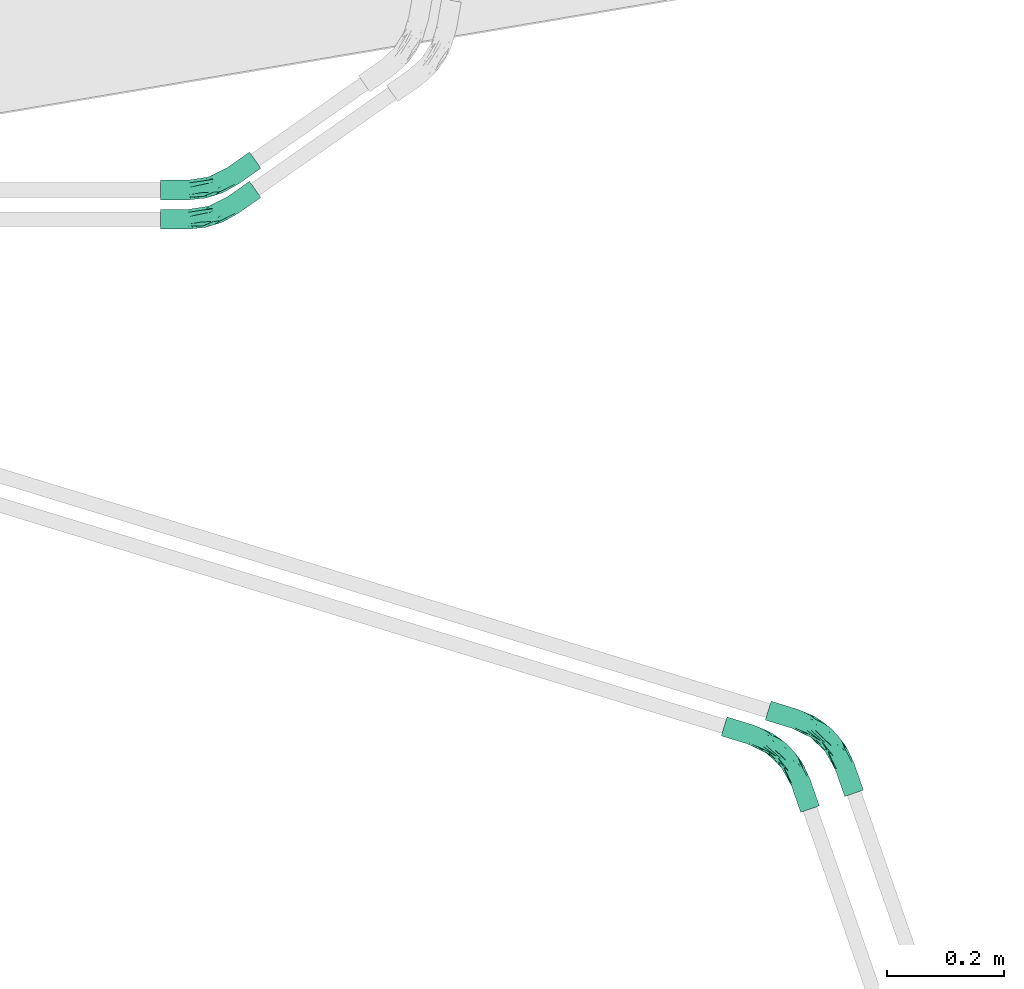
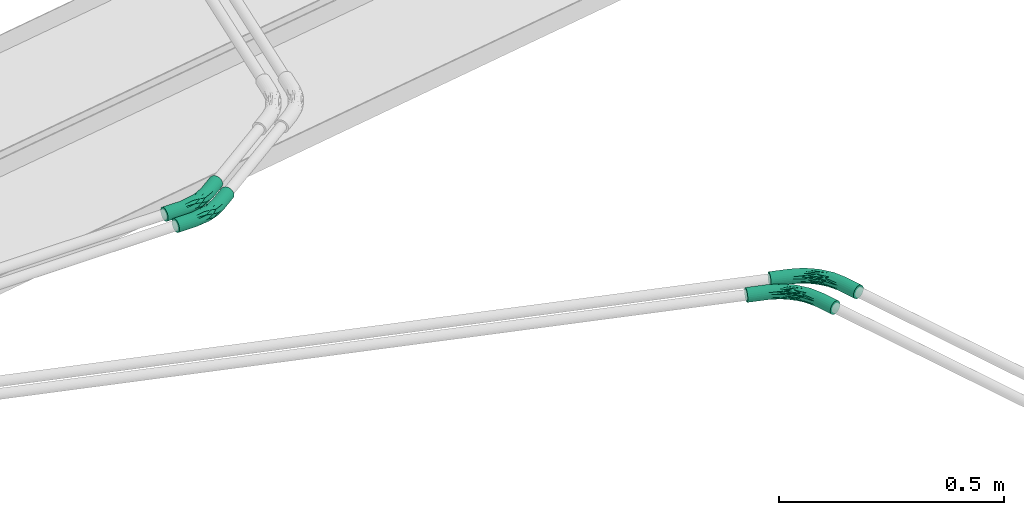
# One storey, part 17 of 22: 4 flow fittings.
"""IFC2X3 building model written with IfcOpenShell, lengths in millimetres."""

from ifc_helpers import new_model, entity, si_unit, converted_unit, derived_unit, direction, frame, origin_with_axes, place, context, subcontext, project, spatial, open_shell, surface_model, source, transform, mapped, type_object, element, save


model = new_model("IFC2X3")

# Units and contexts
model_context = context("Model", 3, precision=0.01, world=frame((0.0, 4.29681676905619e-09, 0.0)), true_north=direction((4.01073788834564e-13, 1.0)))
plan_context = context("Plan", 3, precision=0.01, world=frame((0.0, 4.29681676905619e-09, 0.0)), true_north=direction((4.01073788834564e-13, 1.0)))
body_context = subcontext(model_context, "Body", "Model", "MODEL_VIEW")
ifc_project = project(units=[converted_unit("PLANEANGLEUNIT", "DEGREE", entity("IfcPositiveLengthMeasure", 0.0174532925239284), si_unit("PLANEANGLEUNIT", "RADIAN"), dimensions=[0, 0, 0, 0, 0, 0, 0]), si_unit("AREAUNIT", "SQUARE_METRE"), si_unit("LENGTHUNIT", "METRE", prefix="MILLI"), si_unit("MASSUNIT", "GRAM", prefix="KILO"), si_unit("POWERUNIT", "WATT"), si_unit("PRESSUREUNIT", "PASCAL", prefix="KILO"), si_unit("FORCEUNIT", "NEWTON", prefix="KILO"), si_unit("ELECTRICVOLTAGEUNIT", "VOLT"), si_unit("ELECTRICCURRENTUNIT", "AMPERE"), si_unit("THERMODYNAMICTEMPERATUREUNIT", "DEGREE_CELSIUS"), si_unit("TIMEUNIT", "SECOND"), si_unit("VOLUMEUNIT", "CUBIC_METRE"), derived_unit("LINEARVELOCITYUNIT", [(si_unit("LENGTHUNIT", "METRE"), 1), (si_unit("TIMEUNIT", "SECOND"), -1)]), derived_unit("VOLUMETRICFLOWRATEUNIT", [(si_unit("VOLUMEUNIT", "CUBIC_METRE"), 1), (si_unit("TIMEUNIT", "SECOND"), -1)]), derived_unit("THERMALTRANSMITTANCEUNIT", [(si_unit("POWERUNIT", "WATT"), 1), (si_unit("THERMODYNAMICTEMPERATUREUNIT", "KELVIN"), -1), (si_unit("AREAUNIT", "SQUARE_METRE"), -1)]), derived_unit("SOUNDPRESSUREUNIT", [(si_unit("PRESSUREUNIT", "PASCAL"), 1)])], contexts=[model_context, plan_context])

# Site, building, storey
site_placement = place(None, frame((0.0, -4.29681676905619e-09, 0.0), z_axis=(0.0, 0.0, 1.0), x_axis=(1.0, 0.0, 0.0)))
site = spatial("IfcSite", under=ifc_project, at=site_placement, Name="ENGM", CompositionType="ELEMENT")
building_placement = place(site_placement, frame((0.0, 4.29681676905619e-09, 0.0), z_axis=(0.0, 0.0, 1.0), x_axis=(1.0, 0.0, 0.0)))
building = spatial("IfcBuilding", under=site, at=building_placement, Name="TI", CompositionType="ELEMENT")
storey_placement = place(building_placement, frame((0.0, 0.0, 210900.0), z_axis=(0.0, 0.0, 1.0), x_axis=(1.0, 0.0, 0.0)))
storey = spatial("IfcBuildingStorey", under=building, at=storey_placement, Name="Nivå F", CompositionType="ELEMENT", Elevation=210900.0)

# Flow fittings
cable_carrier_fitting_type = type_object("IfcCableCarrierFittingType", Name="Trekkerør, glatt bend", PredefinedType="BEND")
shared_shape_1 = source(origin_with_axes(), body_context, "Body", "SurfaceModel", [
    surface_model("IfcShellBasedSurfaceModel", [(-114.18104, 8.46055, -14.6541), (-114.18104, 4.3795, -16.34452), (-114.18104, 0.0, -16.92109), (-114.18104, -4.3795, -16.34452), (-114.18104, -8.46055, -14.6541), (-114.18104, -14.6541, -8.46055), (-114.18104, 16.92109, 0.0), (-114.18104, -11.96502, -11.96502), (-114.18104, -11.96502, 11.96502), (-114.18104, 14.6541, -8.46055), (-114.18104, 11.96502, -11.96502), (-114.18104, 16.34452, -4.3795), (-114.18104, -16.34452, -4.3795), (-114.18104, -16.92109, 0.0), (-114.18104, -16.34452, 4.3795), (-114.18104, -14.6541, 8.46055), (-114.18104, 0.0, 16.92109), (-114.18104, -8.46055, 14.6541), (-114.18104, -4.3795, 16.34452), (-114.18104, 14.6541, 8.46055), (-114.18104, 8.46055, 14.6541), (-114.18104, 11.96502, 11.96502), (-114.18104, 16.34452, 4.3795), (-114.18104, 4.3795, 16.34452), (-66.86307, 16.34452, 4.3795), (-66.86307, 16.92109, 0.0), (-66.86307, 14.6541, 8.46055), (-66.86307, 8.46055, 14.6541), (-66.86307, 11.96502, 11.96502), (-66.86307, 4.3795, 16.34452), (-66.86307, 0.0, 16.92109), (-66.86307, -8.46055, 14.6541), (-66.86307, -4.3795, 16.34452), (-66.86307, -11.96502, 11.96502), (-66.86307, -16.34452, 4.3795), (-66.86307, -14.6541, 8.46055), (-66.86307, -16.92109, 0.0), (-66.86307, -16.34452, -4.3795), (-66.86307, -14.6541, -8.46055), (-66.86307, -8.46055, -14.6541), (-66.86307, -11.96502, -11.96502), (-66.86307, -4.3795, -16.34452), (-66.86307, 0.0, -16.92109), (-66.86307, 8.46055, -14.6541), (-66.86307, 4.3795, -16.34452), (-66.86307, 11.96502, -11.96502), (-66.86307, 16.34452, -4.3795), (-66.86307, 14.6541, -8.46055), (-32.27242, 12.84216, 0.0), (-35.42196, 13.15403, 3.63992), (-7.95797, 4.42749, 3.1862), (21.78288, -31.11607, 16.75716), (39.48772, -53.9573, 16.92109), (43.0219, -51.37087, 16.34452), (-28.2681, 1.16114, 15.55965), (-32.48914, 9.40106, 10.16826), (-36.24238, 7.08238, 13.33358), (-43.40125, 13.61824, 6.79025), (-33.3333, -18.16273, 10.43706), (-4.61214, -9.09061, 15.89686), (-37.97456, -0.798, 16.75716), (13.72034, -40.73345, 13.50422), (29.83216, -61.02355, 11.96502), (32.66021, -58.95389, 14.6541), (11.07823, -28.03505, 16.79998), (-29.16631, -7.61689, 16.79998), (-9.40332, -18.53411, 16.22846), (-36.81854, -9.98559, 15.69055), (15.53221, -8.29758, 2.92209), (29.42271, -18.45899, 0.0), (0.42066, 0.82913, 0.0), (-40.97407, -12.98412, 13.50422), (28.60105, -22.24115, 10.17752), (49.14327, -46.89105, 11.96502), (51.31331, -45.30294, 8.46055), (-43.67359, -17.90107, 6.63933), (-16.70811, -26.90629, 6.71647), (35.95354, -56.54373, 16.34452), (13.68595, -35.60915, 15.69055), (-29.39279, -22.78636, 3.63614), (27.26363, -25.19258, 13.33415), (-4.16877, -35.06109, 3.66136), (27.66212, -62.61165, 8.46055), (9.20666, -43.94014, 6.59732), (26.29798, -63.60998, 4.3795), (17.63148, -22.12611, 15.55965), (46.31523, -48.9607, 14.6541), (22.76936, -14.64862, 6.28703), (36.27692, -25.07799, 3.1792), (52.67745, -44.30462, 4.3795), (2.86445, -3.39946, 9.02542), (53.14274, -43.96411, 0.0), (-2.4602, -4.84909, 13.22646), (-11.7917, -23.24165, 13.59813), (3.5245, -36.48876, 10.44458), (0.44002, -38.70356, 0.0), (25.8327, -63.95049, 0.0), (-31.49295, -22.5023, 0.0), (-6.09794, -12.01915, 16.73333), (-17.17436, 7.10447, 6.24887), (-4.44654, -24.36305, 15.14505), (-31.04354, -11.52814, -15.70174), (-16.70811, -26.90629, -6.71647), (3.5245, -36.48876, -10.44458), (9.20666, -43.94014, -6.59732), (29.00466, -22.59625, -10.17958), (-1.07229, -2.11351, -10.03898), (15.35976, -8.89418, -5.28368), (-40.97407, -12.98412, -13.50422), (-29.39279, -22.78636, -3.63614), (29.83216, -61.02355, -11.96502), (27.66212, -62.61165, -8.46055), (-4.16877, -35.06109, -3.66136), (-27.48572, 4.89323, -13.30679), (-33.3333, -18.16273, -10.43706), (-43.67359, -17.90107, -6.63933), (-11.7917, -23.24165, -13.59813), (-39.02557, -5.09311, -16.79389), (-35.36422, 10.06144, -10.17958), (-26.5563, 10.09311, -6.29304), (-41.67473, 14.46692, -3.17756), (36.78908, -26.89793, -6.37043), (51.31331, -45.30294, -8.46055), (-36.95798, 3.34037, -15.57665), (-8.09915, -15.96357, -16.81304), (9.03056, -31.85982, -15.70174), (-29.17558, -3.00766, -16.75093), (35.95354, -56.54373, -16.34452), (32.66021, -58.95389, -14.6541), (18.93752, -34.5008, -16.79389), (26.29798, -63.60998, -4.3795), (14.80326, -25.32043, -16.75093), (43.0219, -51.37087, -16.34452), (39.48772, -53.9573, -16.92109), (49.14327, -46.89105, -11.96502), (46.31523, -48.9607, -14.6541), (20.18115, -19.29066, -13.30679), (13.72034, -40.73345, -13.50422), (24.52211, -27.85168, -15.57665), (-4.17447, -8.22795, -15.50993), (-6.60087, -13.01042, -16.86289), (-2.8082, -5.53501, -13.80517), (52.67745, -44.30462, -4.3795), (-15.87372, 7.6289, -2.95781), (36.50825, -25.29169, -3.14006), (60.60506, -97.13865, -14.6541), (63.89839, -94.72848, -16.34452), (67.43257, -92.14205, -16.92109), (57.77701, -99.20831, -11.96502), (81.08759, -82.14886, 0.0), (55.60698, -100.79641, -8.46055), (60.60506, -97.13865, 14.6541), (77.08813, -85.0758, -11.96502), (79.25816, -83.48769, -8.46055), (74.26008, -87.14545, -14.6541), (70.96675, -89.55563, -16.34452), (80.6223, -82.48937, -4.3795), (53.77755, -102.13524, 0.0), (54.24283, -101.79473, -4.3795), (55.60698, -100.79641, 8.46055), (54.24283, -101.79473, 4.3795), (57.77701, -99.20831, 11.96502), (79.25816, -83.48769, 8.46055), (63.89839, -94.72848, 16.34452), (77.08813, -85.0758, 11.96502), (74.26008, -87.14545, 14.6541), (80.6223, -82.48937, 4.3795), (70.96675, -89.55563, 16.34452), (67.43257, -92.14205, 16.92109)], [open_shell([[[0, 1, 2]], [[2, 3, 4]], [[2, 4, 5]], [[2, 5, 6]], [[5, 4, 7]], [[8, 6, 5]], [[0, 9, 10]], [[0, 11, 9]], [[0, 2, 11]], [[6, 11, 2]], [[5, 12, 8]], [[13, 14, 15]], [[13, 15, 8]], [[16, 6, 17]], [[6, 8, 17]], [[16, 17, 18]], [[19, 20, 21]], [[19, 22, 6]], [[20, 16, 23]], [[20, 19, 6]], [[20, 6, 16]], [[12, 13, 8]], [[24, 25, 22]], [[24, 19, 26]], [[27, 28, 20]], [[21, 28, 26]], [[29, 27, 23]], [[6, 22, 25]], [[22, 19, 24]], [[19, 21, 26]], [[21, 20, 28]], [[27, 20, 23]], [[23, 16, 29]], [[16, 30, 29]], [[31, 32, 17]], [[31, 8, 33]], [[34, 35, 14]], [[15, 35, 33]], [[36, 34, 13]], [[30, 18, 32]], [[18, 17, 32]], [[16, 18, 30]], [[17, 8, 31]], [[8, 15, 33]], [[35, 15, 14]], [[14, 13, 34]], [[37, 36, 12]], [[37, 5, 38]], [[39, 40, 4]], [[7, 40, 38]], [[41, 39, 3]], [[13, 12, 36]], [[12, 5, 37]], [[5, 7, 38]], [[7, 4, 40]], [[39, 4, 3]], [[3, 2, 41]], [[2, 42, 41]], [[43, 44, 0]], [[43, 10, 45]], [[46, 47, 11]], [[9, 47, 45]], [[25, 46, 6]], [[42, 1, 44]], [[1, 0, 44]], [[2, 1, 42]], [[0, 10, 43]], [[10, 9, 45]], [[47, 9, 11]], [[11, 6, 46]], [[48, 49, 50]], [[48, 25, 49]], [[51, 52, 53]], [[54, 27, 29]], [[55, 28, 56]], [[57, 49, 24]], [[58, 33, 35]], [[59, 54, 60]], [[29, 30, 60]], [[61, 62, 63]], [[64, 65, 66]], [[65, 32, 67]], [[68, 69, 70]], [[71, 31, 33]], [[72, 73, 74]], [[75, 76, 58]], [[30, 32, 65]], [[28, 55, 26]], [[63, 77, 78]], [[75, 79, 76]], [[73, 72, 80]], [[79, 34, 36]], [[76, 79, 81]], [[67, 32, 31]], [[30, 65, 60]], [[68, 70, 50]], [[50, 70, 48]], [[82, 83, 84]], [[51, 53, 85]], [[63, 78, 61]], [[33, 58, 71]], [[53, 86, 85]], [[68, 87, 88]], [[77, 52, 64]], [[86, 73, 80]], [[89, 87, 74]], [[72, 87, 90]], [[74, 87, 72]], [[27, 56, 28]], [[88, 89, 91]], [[55, 92, 90]], [[93, 58, 94]], [[27, 54, 56]], [[83, 76, 81]], [[55, 57, 26]], [[84, 95, 96]], [[66, 78, 64]], [[79, 97, 81]], [[82, 94, 83]], [[94, 82, 62]], [[60, 98, 59]], [[93, 94, 61]], [[92, 85, 80]], [[64, 78, 77]], [[51, 98, 64]], [[85, 92, 59]], [[76, 94, 58]], [[90, 87, 99]], [[100, 66, 67]], [[65, 64, 98]], [[93, 67, 71]], [[56, 92, 55]], [[92, 56, 54]], [[86, 80, 85]], [[80, 72, 92]], [[29, 60, 54]], [[98, 60, 65]], [[52, 51, 64]], [[59, 98, 51]], [[95, 84, 81]], [[76, 83, 94]], [[31, 71, 67]], [[93, 71, 58]], [[62, 61, 94]], [[100, 93, 61]], [[72, 90, 92]], [[90, 99, 55]], [[83, 81, 84]], [[95, 81, 97]], [[97, 79, 36]], [[35, 34, 75]], [[79, 75, 34]], [[35, 75, 58]], [[78, 66, 100]], [[66, 65, 67]], [[69, 68, 88]], [[99, 87, 50]], [[69, 88, 91]], [[89, 88, 87]], [[68, 50, 87]], [[49, 99, 50]], [[99, 49, 57]], [[24, 49, 25]], [[99, 57, 55]], [[26, 57, 24]], [[54, 59, 92]], [[85, 59, 51]], [[78, 100, 61]], [[93, 100, 67]], [[39, 41, 101]], [[102, 103, 104]], [[105, 106, 107]], [[39, 108, 40]], [[36, 109, 97]], [[110, 111, 103]], [[109, 112, 97]], [[113, 43, 45]], [[38, 40, 114]], [[38, 114, 115]], [[116, 103, 114]], [[117, 41, 42]], [[118, 47, 119]], [[102, 114, 103]], [[120, 46, 25]], [[121, 122, 105]], [[47, 46, 119]], [[116, 114, 108]], [[44, 43, 123]], [[124, 125, 101]], [[45, 118, 113]], [[113, 123, 43]], [[126, 42, 44]], [[116, 101, 125]], [[124, 101, 117]], [[125, 127, 128]], [[112, 95, 97]], [[127, 125, 129]], [[130, 96, 95]], [[131, 132, 133]], [[130, 104, 111]], [[134, 135, 136]], [[39, 101, 108]], [[137, 110, 103]], [[137, 116, 125]], [[104, 130, 112]], [[129, 133, 127]], [[132, 131, 138]], [[126, 139, 140]], [[110, 137, 128]], [[129, 124, 140]], [[129, 140, 131]], [[136, 138, 139]], [[139, 141, 136]], [[122, 121, 142]], [[48, 70, 143]], [[105, 134, 136]], [[138, 135, 132]], [[107, 70, 69]], [[122, 134, 105]], [[91, 144, 69]], [[119, 107, 106]], [[143, 70, 107]], [[143, 119, 120]], [[113, 106, 141]], [[42, 126, 117]], [[47, 118, 45]], [[109, 37, 115]], [[139, 126, 123]], [[144, 121, 107]], [[105, 136, 106]], [[118, 106, 113]], [[106, 118, 119]], [[44, 123, 126]], [[139, 123, 113]], [[135, 138, 136]], [[139, 138, 131]], [[41, 117, 101]], [[140, 124, 117]], [[133, 129, 131]], [[124, 129, 125]], [[111, 104, 103]], [[102, 104, 112]], [[40, 108, 114]], [[116, 108, 101]], [[128, 137, 125]], [[116, 137, 103]], [[109, 102, 112]], [[95, 112, 130]], [[102, 109, 115]], [[37, 109, 36]], [[102, 115, 114]], [[38, 115, 37]], [[142, 121, 144]], [[107, 121, 105]], [[142, 144, 91]], [[69, 144, 107]], [[48, 143, 120]], [[119, 143, 107]], [[48, 120, 25]], [[46, 120, 119]], [[136, 141, 106]], [[141, 139, 113]], [[131, 140, 139]], [[126, 140, 117]], [[145, 146, 147]], [[148, 145, 147]], [[149, 150, 147]], [[148, 147, 150]], [[150, 149, 151]], [[152, 153, 154]], [[147, 155, 154]], [[156, 149, 153]], [[154, 153, 149]], [[154, 149, 147]], [[157, 158, 150]], [[159, 160, 157]], [[161, 159, 157]], [[149, 162, 151]], [[161, 157, 151]], [[163, 151, 162]], [[164, 165, 162]], [[162, 149, 166]], [[165, 167, 162]], [[168, 162, 167]], [[162, 168, 163]], [[151, 157, 150]], [[166, 149, 89]], [[166, 74, 162]], [[165, 164, 86]], [[73, 164, 162]], [[167, 165, 53]], [[91, 89, 149]], [[89, 74, 166]], [[74, 73, 162]], [[73, 86, 164]], [[165, 86, 53]], [[53, 52, 167]], [[52, 168, 167]], [[151, 163, 63]], [[151, 62, 161]], [[160, 159, 84]], [[82, 159, 161]], [[157, 160, 96]], [[168, 77, 163]], [[77, 63, 163]], [[52, 77, 168]], [[63, 62, 151]], [[62, 82, 161]], [[159, 82, 84]], [[84, 96, 160]], [[158, 157, 96]], [[158, 130, 150]], [[127, 146, 145]], [[110, 145, 148]], [[148, 150, 111]], [[130, 111, 150]], [[158, 96, 130]], [[128, 145, 110]], [[127, 145, 128]], [[127, 133, 146]], [[148, 111, 110]], [[133, 147, 146]], [[154, 155, 135]], [[154, 134, 152]], [[156, 153, 142]], [[122, 153, 152]], [[149, 156, 91]], [[147, 132, 155]], [[132, 135, 155]], [[133, 132, 147]], [[135, 134, 154]], [[134, 122, 152]], [[153, 122, 142]], [[142, 91, 156]]])]),
])
for number, where, z_axis, x_axis, name in (
    (1, (599626.55018, 575799.66133, -56.7999999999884), (0.0, 0.0, 1.0), (0.956304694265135, -0.292371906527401, 0.0), "Trekkerør, glatt bend"),
    (2, (599701.83527, 575826.64437, -56.7999999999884), (0.0, 0.0, 1.0), (0.956304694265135, -0.292371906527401, 0.0), "Trekkerør, glatt bend"),
):
    element("IfcFlowFitting", number, at=place(storey_placement, frame(where, z_axis=z_axis, x_axis=x_axis)), inside=storey, type_object=cable_carrier_fitting_type, Name=name, context=body_context, shape_type="MappedRepresentation", body=[
        mapped(shared_shape_1, transform((0.0, 0.0, 0.0), scale=1.0)),
    ])
shared_shape_2 = source(origin_with_axes(), body_context, "Body", "SurfaceModel", [
    surface_model("IfcShellBasedSurfaceModel", [(-88.87066, 8.46055, -14.6541), (-88.87066, 4.3795, -16.34452), (-88.87066, 0.0, -16.92109), (-88.87066, -4.3795, -16.34452), (-88.87066, -8.46055, -14.6541), (-88.87066, -14.6541, -8.46055), (-88.87066, 16.92109, 0.0), (-88.87066, -11.96502, -11.96502), (-88.87066, -11.96502, 11.96502), (-88.87066, 14.6541, -8.46055), (-88.87066, 11.96502, -11.96502), (-88.87066, 16.34452, -4.3795), (-88.87066, -16.34452, -4.3795), (-88.87066, -16.92109, 0.0), (-88.87066, -16.34452, 4.3795), (-88.87066, -14.6541, 8.46055), (-88.87066, 0.0, 16.92109), (-88.87066, -8.46055, 14.6541), (-88.87066, -4.3795, 16.34452), (-88.87066, 14.6541, 8.46055), (-88.87066, 8.46055, 14.6541), (-88.87066, 11.96502, 11.96502), (-88.87066, 16.34452, 4.3795), (-88.87066, 4.3795, 16.34452), (-41.55269, 16.34452, 4.3795), (-41.55269, 16.92109, 0.0), (-41.55269, 14.6541, 8.46055), (-41.55269, 8.46055, 14.6541), (-41.55269, 11.96502, 11.96502), (-41.55269, 4.3795, 16.34452), (-41.55269, 0.0, 16.92109), (-41.55269, -8.46055, 14.6541), (-41.55269, -4.3795, 16.34452), (-41.55269, -11.96502, 11.96502), (-41.55269, -16.34452, 4.3795), (-41.55269, -14.6541, 8.46055), (-41.55269, -16.92109, 0.0), (-41.55269, -16.34452, -4.3795), (-41.55269, -14.6541, -8.46055), (-41.55269, -8.46055, -14.6541), (-41.55269, -11.96502, -11.96502), (-41.55269, -4.3795, -16.34452), (-41.55269, 0.0, -16.92109), (-41.55269, 8.46055, -14.6541), (-41.55269, 4.3795, -16.34452), (-41.55269, 11.96502, -11.96502), (-41.55269, 16.34452, -4.3795), (-41.55269, 14.6541, -8.46055), (2.90029, 9.19856, 5.38748), (-11.48104, 13.84885, 0.0), (-9.27928, 9.85588, 10.22003), (19.86976, -0.15259, 10.23803), (1.20669, 3.82712, 13.34122), (36.54995, -20.24616, 16.34452), (11.21471, -11.56856, 16.91377), (34.03797, -23.83364, 16.92109), (-1.22017, -3.86989, 16.75881), (-9.97623, 2.91658, 15.59436), (24.66313, -37.22229, 4.3795), (2.41695, -25.3289, 3.24961), (24.33243, -37.69459, 0.0), (38.89074, -16.90317, 14.6541), (40.90082, -14.03247, 11.96502), (-3.83563, -12.16507, 15.68042), (-11.06472, -5.74517, 16.78899), (-12.01933, -13.8649, 13.48391), (31.52599, -27.42112, 16.34452), (7.86439, -19.14087, 14.46607), (29.1852, -30.76412, 14.6541), (-5.93803, -18.83303, 10.39535), (-1.29023, -22.79398, 6.56595), (42.44321, -11.82971, 8.46055), (-21.1026, -18.54685, 2.632), (25.63272, -35.83757, 8.46055), (27.17511, -33.63481, 11.96502), (17.34809, 4.75906, 0.0), (17.57572, -6.73024, 15.60468), (9.01394, -14.11226, 16.50988), (43.4128, -10.44499, 4.3795), (43.74351, -9.97269, 0.0), (-7.01146, -22.2375, 0.0), (-15.82201, -3.04391, -16.91377), (-18.25749, 4.56793, -15.60468), (-1.22017, -3.86989, -16.75881), (13.25424, 2.75109, -10.22003), (-16.36388, 11.27183, -10.23803), (2.90029, 9.19856, -5.38748), (-15.47825, -6.38991, -16.50988), (5.7684, -11.05263, -16.78899), (-3.83563, -12.16507, -15.68042), (-5.93803, -18.83303, -10.39535), (-12.0172, -19.41179, -6.56595), (9.84493, -3.33301, -15.59436), (-17.42088, -11.16845, -14.46607), (1.89307, -18.25147, -13.48391), (1.20669, 3.82712, -13.34122), (-16.50791, -19.36192, -3.24961), (43.4128, -10.44499, -4.3795), (42.44321, -11.82971, -8.46055), (40.90082, -14.03247, -11.96502), (6.6482, -27.29665, -2.632), (24.66313, -37.22229, -4.3795), (38.89074, -16.90317, -14.6541), (36.54995, -20.24616, -16.34452), (25.63272, -35.83757, -8.46055), (27.17511, -33.63481, -11.96502), (31.52599, -27.42112, -16.34452), (29.1852, -30.76412, -14.6541), (34.03797, -23.83364, -16.92109), (70.2866, -54.56159, -16.34452), (72.79858, -50.97411, -16.92109), (75.31056, -47.38664, -16.34452), (67.94581, -57.90459, -14.6541), (63.42374, -64.36276, -4.3795), (64.39334, -62.97805, -8.46055), (65.93572, -60.77528, -11.96502), (82.50412, -37.11316, 0.0), (63.42374, -64.36276, 4.3795), (79.66143, -41.17294, -11.96502), (81.20382, -38.97018, -8.46055), (77.65135, -44.04364, -14.6541), (82.17341, -37.58546, -4.3795), (63.09304, -64.83506, 0.0), (64.39334, -62.97805, 8.46055), (79.66143, -41.17294, 11.96502), (67.94581, -57.90459, 14.6541), (65.93572, -60.77528, 11.96502), (72.79858, -50.97411, 16.92109), (70.2866, -54.56159, 16.34452), (81.20382, -38.97018, 8.46055), (82.17341, -37.58546, 4.3795), (77.65135, -44.04364, 14.6541), (75.31056, -47.38664, 16.34452)], [open_shell([[[0, 1, 2]], [[2, 3, 4]], [[2, 4, 5]], [[2, 5, 6]], [[5, 4, 7]], [[8, 6, 5]], [[0, 9, 10]], [[0, 11, 9]], [[0, 2, 11]], [[6, 11, 2]], [[5, 12, 8]], [[13, 14, 15]], [[13, 15, 8]], [[16, 6, 17]], [[6, 8, 17]], [[16, 17, 18]], [[19, 20, 21]], [[19, 22, 6]], [[20, 16, 23]], [[20, 19, 6]], [[20, 6, 16]], [[12, 13, 8]], [[24, 25, 22]], [[24, 19, 26]], [[27, 28, 20]], [[21, 28, 26]], [[29, 27, 23]], [[6, 22, 25]], [[22, 19, 24]], [[19, 21, 26]], [[21, 20, 28]], [[27, 20, 23]], [[23, 16, 29]], [[16, 30, 29]], [[31, 32, 17]], [[31, 8, 33]], [[34, 35, 14]], [[15, 35, 33]], [[36, 34, 13]], [[30, 18, 32]], [[18, 17, 32]], [[16, 18, 30]], [[17, 8, 31]], [[8, 15, 33]], [[35, 15, 14]], [[14, 13, 34]], [[37, 36, 12]], [[37, 5, 38]], [[39, 40, 4]], [[7, 40, 38]], [[41, 39, 3]], [[13, 12, 36]], [[12, 5, 37]], [[5, 7, 38]], [[7, 4, 40]], [[39, 4, 3]], [[3, 2, 41]], [[2, 42, 41]], [[43, 44, 0]], [[43, 10, 45]], [[46, 47, 11]], [[9, 47, 45]], [[25, 46, 6]], [[42, 1, 44]], [[1, 0, 44]], [[2, 1, 42]], [[0, 10, 43]], [[10, 9, 45]], [[47, 9, 11]], [[11, 6, 46]], [[26, 48, 24]], [[25, 24, 49]], [[50, 26, 28]], [[51, 50, 52]], [[27, 52, 28]], [[52, 50, 28]], [[53, 54, 55]], [[29, 56, 57]], [[29, 30, 56]], [[57, 27, 29]], [[58, 59, 60]], [[52, 61, 62]], [[63, 64, 32]], [[32, 31, 63]], [[65, 31, 33]], [[66, 67, 68]], [[50, 48, 26]], [[69, 65, 33]], [[57, 52, 27]], [[33, 35, 69]], [[70, 69, 35]], [[71, 48, 51]], [[34, 36, 72]], [[69, 73, 74]], [[48, 75, 49]], [[64, 30, 32]], [[53, 61, 76]], [[56, 76, 57]], [[50, 51, 48]], [[54, 64, 77]], [[55, 54, 66]], [[48, 49, 24]], [[57, 76, 52]], [[71, 51, 62]], [[56, 54, 53]], [[78, 79, 75]], [[77, 66, 54]], [[53, 76, 56]], [[56, 64, 54]], [[72, 59, 70]], [[48, 71, 78]], [[60, 59, 80]], [[64, 56, 30]], [[73, 69, 70]], [[63, 65, 67]], [[67, 65, 74]], [[34, 70, 35]], [[73, 70, 58]], [[65, 63, 31]], [[69, 74, 65]], [[77, 64, 63]], [[58, 70, 59]], [[62, 51, 52]], [[75, 48, 78]], [[77, 63, 66]], [[61, 52, 76]], [[80, 59, 72]], [[80, 72, 36]], [[34, 72, 70]], [[63, 67, 66]], [[68, 67, 74]], [[44, 81, 42]], [[44, 82, 83]], [[84, 85, 86]], [[87, 88, 89]], [[90, 91, 38]], [[82, 92, 83]], [[93, 94, 40]], [[94, 90, 40]], [[39, 41, 93]], [[89, 94, 93]], [[45, 85, 95]], [[38, 40, 90]], [[46, 25, 49]], [[37, 96, 36]], [[87, 89, 41]], [[86, 46, 49]], [[43, 45, 95]], [[83, 81, 44]], [[75, 97, 86]], [[85, 45, 47]], [[43, 82, 44]], [[42, 81, 41]], [[87, 41, 81]], [[84, 98, 99]], [[96, 80, 36]], [[92, 82, 95]], [[100, 101, 60]], [[92, 102, 103]], [[85, 84, 95]], [[104, 91, 90]], [[90, 94, 105]], [[87, 81, 88]], [[89, 106, 107]], [[83, 88, 81]], [[37, 91, 96]], [[104, 90, 105]], [[101, 91, 104]], [[88, 106, 89]], [[83, 92, 103]], [[43, 95, 82]], [[84, 99, 95]], [[95, 99, 102]], [[92, 95, 102]], [[83, 103, 108]], [[75, 86, 49]], [[84, 86, 98]], [[97, 75, 79]], [[38, 91, 37]], [[94, 107, 105]], [[98, 86, 97]], [[47, 86, 85]], [[86, 47, 46]], [[88, 83, 108]], [[91, 100, 96]], [[94, 89, 107]], [[88, 108, 106]], [[80, 96, 100]], [[80, 100, 60]], [[101, 100, 91]], [[89, 93, 41]], [[39, 93, 40]], [[109, 110, 111]], [[109, 111, 112]], [[113, 114, 115]], [[112, 113, 115]], [[112, 116, 117]], [[118, 119, 120]], [[111, 120, 116]], [[121, 116, 119]], [[120, 119, 116]], [[116, 112, 111]], [[122, 113, 112]], [[116, 123, 117]], [[123, 116, 124]], [[125, 123, 124]], [[126, 123, 125]], [[125, 127, 128]], [[116, 129, 124]], [[129, 116, 130]], [[131, 132, 124]], [[127, 124, 132]], [[125, 124, 127]], [[117, 122, 112]], [[130, 116, 78]], [[130, 71, 129]], [[131, 124, 61]], [[62, 124, 129]], [[132, 131, 53]], [[79, 78, 116]], [[78, 71, 130]], [[71, 62, 129]], [[62, 61, 124]], [[131, 61, 53]], [[53, 55, 132]], [[55, 127, 132]], [[125, 128, 68]], [[125, 74, 126]], [[117, 123, 58]], [[73, 123, 126]], [[122, 117, 60]], [[127, 66, 128]], [[66, 68, 128]], [[55, 66, 127]], [[68, 74, 125]], [[74, 73, 126]], [[123, 73, 58]], [[58, 60, 117]], [[113, 122, 60]], [[113, 101, 114]], [[106, 109, 112]], [[105, 112, 115]], [[115, 114, 104]], [[101, 104, 114]], [[113, 60, 101]], [[107, 112, 105]], [[106, 112, 107]], [[106, 108, 109]], [[115, 104, 105]], [[108, 110, 109]], [[120, 111, 102]], [[120, 99, 118]], [[121, 119, 97]], [[98, 119, 118]], [[116, 121, 79]], [[110, 103, 111]], [[103, 102, 111]], [[108, 103, 110]], [[102, 99, 120]], [[99, 98, 118]], [[119, 98, 97]], [[97, 79, 121]]])]),
])
for number, where, z_axis, x_axis, name in (
    (3, (598643.2853, 576749.62419, -56.7999999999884), (0.0, 0.0, 1.0), (-0.819152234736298, -0.573576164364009, 0.0), "Trekkerør, glatt bend"),
    (4, (598643.2853, 576699.62419, -56.7999999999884), (0.0, 0.0, 1.0), (-0.819152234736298, -0.573576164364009, 0.0), "Trekkerør, glatt bend"),
):
    element("IfcFlowFitting", number, at=place(storey_placement, frame(where, z_axis=z_axis, x_axis=x_axis)), inside=storey, type_object=cable_carrier_fitting_type, Name=name, context=body_context, shape_type="MappedRepresentation", body=[
        mapped(shared_shape_2, transform((0.0, 0.0, 0.0), scale=1.0)),
    ])

save(model, "model.ifc")
